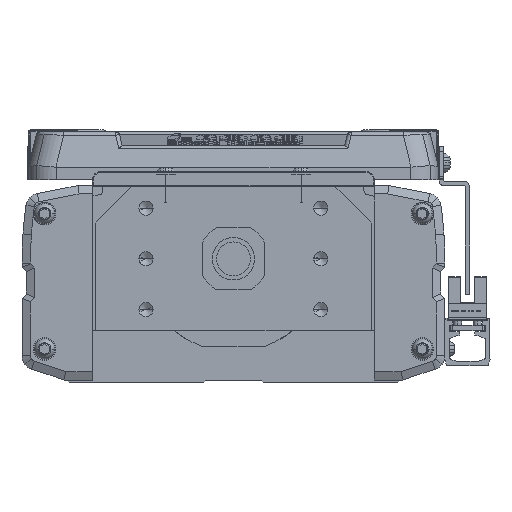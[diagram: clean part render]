
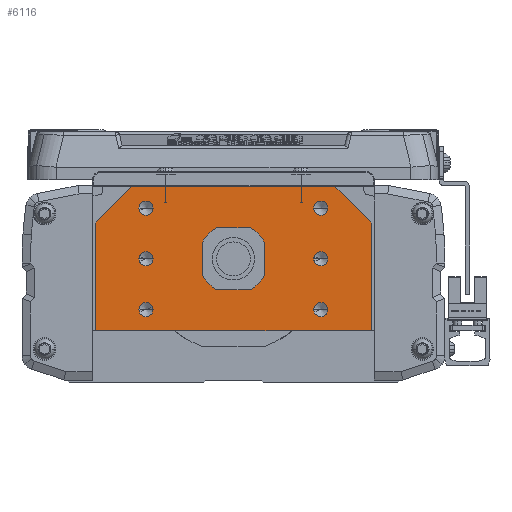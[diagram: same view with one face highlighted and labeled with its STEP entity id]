
A CAD part, left-side view. The second image highlights one B-rep face of the part: STEP entity #6116.
In plain terms, the highlighted planar face has unit normal (-1, 0, 0).
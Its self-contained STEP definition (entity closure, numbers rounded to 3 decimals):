
#6116=ADVANCED_FACE('',(#13040,#13041,#13042,#13043,#13044,#13045,#13046,#13047),#13048,.F.);
#13040=FACE_OUTER_BOUND('',#21862,.T.);
#13041=FACE_BOUND('',#21863,.T.);
#13042=FACE_BOUND('',#21864,.T.);
#13043=FACE_BOUND('',#21865,.T.);
#13044=FACE_BOUND('',#21866,.T.);
#13045=FACE_BOUND('',#21867,.T.);
#13046=FACE_BOUND('',#21868,.T.);
#13047=FACE_BOUND('',#21869,.T.);
#13048=PLANE('',#21870);
#21862=EDGE_LOOP('',(#39342,#39343,#39344,#39345,#39346,#39347,#39348,#39349));
#21863=EDGE_LOOP('',(#39350,#39351));
#21864=EDGE_LOOP('',(#39352,#39353));
#21865=EDGE_LOOP('',(#39354,#39355));
#21866=EDGE_LOOP('',(#39356,#39357));
#21867=EDGE_LOOP('',(#39358,#39359));
#21868=EDGE_LOOP('',(#39360,#39361));
#21869=EDGE_LOOP('',(#39362,#39363));
#21870=AXIS2_PLACEMENT_3D('',#39364,#39365,#39366);
#39342=ORIENTED_EDGE('',*,*,#51056,.F.);
#39343=ORIENTED_EDGE('',*,*,#51382,.F.);
#39344=ORIENTED_EDGE('',*,*,#52342,.F.);
#39345=ORIENTED_EDGE('',*,*,#54807,.F.);
#39346=ORIENTED_EDGE('',*,*,#53500,.F.);
#39347=ORIENTED_EDGE('',*,*,#54808,.F.);
#39348=ORIENTED_EDGE('',*,*,#51977,.F.);
#39349=ORIENTED_EDGE('',*,*,#54809,.F.);
#39350=ORIENTED_EDGE('',*,*,#54810,.T.);
#39351=ORIENTED_EDGE('',*,*,#50081,.T.);
#39352=ORIENTED_EDGE('',*,*,#54811,.T.);
#39353=ORIENTED_EDGE('',*,*,#50105,.T.);
#39354=ORIENTED_EDGE('',*,*,#54812,.T.);
#39355=ORIENTED_EDGE('',*,*,#54813,.T.);
#39356=ORIENTED_EDGE('',*,*,#54224,.T.);
#39357=ORIENTED_EDGE('',*,*,#51189,.T.);
#39358=ORIENTED_EDGE('',*,*,#54814,.T.);
#39359=ORIENTED_EDGE('',*,*,#54815,.T.);
#39360=ORIENTED_EDGE('',*,*,#54816,.T.);
#39361=ORIENTED_EDGE('',*,*,#48977,.T.);
#39362=ORIENTED_EDGE('',*,*,#54817,.F.);
#39363=ORIENTED_EDGE('',*,*,#50184,.F.);
#39364=CARTESIAN_POINT('',(0.,0.275,-2.548));
#39365=DIRECTION('',(1.0,0.,0.));
#39366=DIRECTION('',(0.,1.0,0.));
#48977=EDGE_CURVE('',#58660,#58658,#58661,.T.);
#50081=EDGE_CURVE('',#60541,#60539,#60542,.T.);
#50105=EDGE_CURVE('',#60583,#60581,#60584,.T.);
#50184=EDGE_CURVE('',#60712,#60715,#60716,.F.);
#51056=EDGE_CURVE('',#62101,#62102,#62103,.T.);
#51189=EDGE_CURVE('',#62312,#62310,#62313,.T.);
#51382=EDGE_CURVE('',#62616,#62101,#62618,.T.);
#51977=EDGE_CURVE('',#63547,#63548,#63549,.T.);
#52342=EDGE_CURVE('',#64092,#62616,#64094,.T.);
#53500=EDGE_CURVE('',#65765,#65767,#65768,.T.);
#54224=EDGE_CURVE('',#62310,#62312,#66748,.T.);
#54807=EDGE_CURVE('',#65767,#64092,#67485,.T.);
#54808=EDGE_CURVE('',#63548,#65765,#67486,.T.);
#54809=EDGE_CURVE('',#62102,#63547,#67487,.T.);
#54810=EDGE_CURVE('',#60539,#60541,#67488,.T.);
#54811=EDGE_CURVE('',#60581,#60583,#67489,.T.);
#54812=EDGE_CURVE('',#67490,#67491,#67492,.T.);
#54813=EDGE_CURVE('',#67491,#67490,#67493,.T.);
#54814=EDGE_CURVE('',#67494,#67495,#67496,.T.);
#54815=EDGE_CURVE('',#67495,#67494,#67497,.T.);
#54816=EDGE_CURVE('',#58658,#58660,#67498,.T.);
#54817=EDGE_CURVE('',#60715,#60712,#67499,.F.);
#58658=VERTEX_POINT('',#72211);
#58660=VERTEX_POINT('',#72214);
#58661=CIRCLE('',#72215,2.5);
#60539=VERTEX_POINT('',#74770);
#60541=VERTEX_POINT('',#74773);
#60542=CIRCLE('',#74774,2.5);
#60581=VERTEX_POINT('',#74825);
#60583=VERTEX_POINT('',#74828);
#60584=CIRCLE('',#74829,2.5);
#60712=VERTEX_POINT('',#74993);
#60715=VERTEX_POINT('',#74997);
#60716=CIRCLE('',#74998,7.5);
#62101=VERTEX_POINT('',#76898);
#62102=VERTEX_POINT('',#76899);
#62103=LINE('',#76900,#76901);
#62310=VERTEX_POINT('',#77199);
#62312=VERTEX_POINT('',#77202);
#62313=CIRCLE('',#77203,2.5);
#62616=VERTEX_POINT('',#77634);
#62618=LINE('',#77637,#77638);
#63547=VERTEX_POINT('',#78907);
#63548=VERTEX_POINT('',#78908);
#63549=LINE('',#78909,#78910);
#64092=VERTEX_POINT('',#79756);
#64094=LINE('',#79759,#79760);
#65765=VERTEX_POINT('',#82235);
#65767=VERTEX_POINT('',#82238);
#65768=LINE('',#82239,#82240);
#66748=CIRCLE('',#83637,2.5);
#67485=LINE('',#84889,#84890);
#67486=LINE('',#84891,#84892);
#67487=LINE('',#84893,#84894);
#67488=CIRCLE('',#84895,2.5);
#67489=CIRCLE('',#84896,2.5);
#67490=VERTEX_POINT('',#84897);
#67491=VERTEX_POINT('',#84898);
#67492=CIRCLE('',#84899,2.5);
#67493=CIRCLE('',#84900,2.5);
#67494=VERTEX_POINT('',#84901);
#67495=VERTEX_POINT('',#84902);
#67496=CIRCLE('',#84903,2.5);
#67497=CIRCLE('',#84904,2.5);
#67498=CIRCLE('',#84905,2.5);
#67499=CIRCLE('',#84906,7.5);
#72211=CARTESIAN_POINT('',(0.,-33.5,0.));
#72214=CARTESIAN_POINT('',(0.,-28.5,0.));
#72215=AXIS2_PLACEMENT_3D('',#89383,#89384,#89385);
#74770=CARTESIAN_POINT('',(0.,33.5,-18.));
#74773=CARTESIAN_POINT('',(0.,28.5,-18.));
#74774=AXIS2_PLACEMENT_3D('',#90930,#90931,#90932);
#74825=CARTESIAN_POINT('',(0.,-33.5,-18.));
#74828=CARTESIAN_POINT('',(0.,-28.5,-18.));
#74829=AXIS2_PLACEMENT_3D('',#90961,#90962,#90963);
#74993=CARTESIAN_POINT('',(0.,-7.5,0.));
#74997=CARTESIAN_POINT('',(0.,7.5,0.));
#74998=AXIS2_PLACEMENT_3D('',#91079,#91080,#91081);
#76898=CARTESIAN_POINT('',(0.,49.,12.7));
#76899=CARTESIAN_POINT('',(0.,36.,25.7));
#76900=CARTESIAN_POINT('',(0.,37.381,24.319));
#76901=VECTOR('',#92197,10.);
#77199=CARTESIAN_POINT('',(0.,-33.5,18.));
#77202=CARTESIAN_POINT('',(0.,-28.5,18.));
#77203=AXIS2_PLACEMENT_3D('',#92368,#92369,#92370);
#77634=CARTESIAN_POINT('',(0.,49.,-25.));
#77637=CARTESIAN_POINT('',(0.,49.,-25.));
#77638=VECTOR('',#92614,10.0);
#78907=CARTESIAN_POINT('',(0.,-36.,25.7));
#78908=CARTESIAN_POINT('',(0.,-49.,12.7));
#78909=CARTESIAN_POINT('',(0.,-37.243,24.457));
#78910=VECTOR('',#93397,10.0);
#79756=CARTESIAN_POINT('',(0.,48.5,-25.5));
#79759=CARTESIAN_POINT('',(0.,48.5,-25.5));
#79760=VECTOR('',#93884,10.0);
#82235=CARTESIAN_POINT('',(0.,-49.,-25.));
#82238=CARTESIAN_POINT('',(0.,-48.5,-25.5));
#82239=CARTESIAN_POINT('',(0.,-49.,-25.));
#82240=VECTOR('',#95330,10.0);
#83637=AXIS2_PLACEMENT_3D('',#96221,#96222,#96223);
#84889=CARTESIAN_POINT('',(0.,0.,-25.5));
#84890=VECTOR('',#96885,10.0);
#84891=CARTESIAN_POINT('',(0.,-49.,-14.));
#84892=VECTOR('',#96886,10.0);
#84893=CARTESIAN_POINT('',(0.,34.5,25.7));
#84894=VECTOR('',#96887,10.0);
#84895=AXIS2_PLACEMENT_3D('',#96888,#96889,#96890);
#84896=AXIS2_PLACEMENT_3D('',#96891,#96892,#96893);
#84897=CARTESIAN_POINT('',(0.,33.5,18.));
#84898=CARTESIAN_POINT('',(0.,28.5,18.));
#84899=AXIS2_PLACEMENT_3D('',#96894,#96895,#96896);
#84900=AXIS2_PLACEMENT_3D('',#96897,#96898,#96899);
#84901=CARTESIAN_POINT('',(0.,33.5,0.));
#84902=CARTESIAN_POINT('',(0.,28.5,0.));
#84903=AXIS2_PLACEMENT_3D('',#96900,#96901,#96902);
#84904=AXIS2_PLACEMENT_3D('',#96903,#96904,#96905);
#84905=AXIS2_PLACEMENT_3D('',#96906,#96907,#96908);
#84906=AXIS2_PLACEMENT_3D('',#96909,#96910,#96911);
#89383=CARTESIAN_POINT('',(0.,-31.,0.));
#89384=DIRECTION('',(1.0,0.,0.));
#89385=DIRECTION('',(0.,-1.0,0.));
#90930=CARTESIAN_POINT('',(0.,31.,-18.));
#90931=DIRECTION('',(1.0,0.,0.));
#90932=DIRECTION('',(0.,1.0,0.));
#90961=CARTESIAN_POINT('',(0.,-31.,-18.));
#90962=DIRECTION('',(1.0,0.,0.));
#90963=DIRECTION('',(0.,-1.0,0.));
#91079=CARTESIAN_POINT('',(0.,0.,0.));
#91080=DIRECTION('',(1.0,0.,0.));
#91081=DIRECTION('',(0.,-1.0,0.));
#92197=DIRECTION('',(0.,-0.707,0.707));
#92368=CARTESIAN_POINT('',(0.,-31.,18.));
#92369=DIRECTION('',(1.0,0.,0.));
#92370=DIRECTION('',(0.,-1.0,0.));
#92614=DIRECTION('',(0.,0.,1.0));
#93397=DIRECTION('',(0.,-0.707,-0.707));
#93884=DIRECTION('',(0.,0.707,0.707));
#95330=DIRECTION('',(0.,0.707,-0.707));
#96221=CARTESIAN_POINT('',(0.,-31.,18.));
#96222=DIRECTION('',(1.0,0.,0.));
#96223=DIRECTION('',(0.,-1.0,0.));
#96885=DIRECTION('',(0.,1.0,0.));
#96886=DIRECTION('',(0.,0.,-1.0));
#96887=DIRECTION('',(0.,-1.0,0.));
#96888=CARTESIAN_POINT('',(0.,31.,-18.));
#96889=DIRECTION('',(1.0,0.,0.));
#96890=DIRECTION('',(0.,1.0,0.));
#96891=CARTESIAN_POINT('',(0.,-31.,-18.));
#96892=DIRECTION('',(1.0,0.,0.));
#96893=DIRECTION('',(0.,-1.0,0.));
#96894=CARTESIAN_POINT('',(0.,31.,18.));
#96895=DIRECTION('',(1.0,0.,0.));
#96896=DIRECTION('',(0.,1.0,0.));
#96897=CARTESIAN_POINT('',(0.,31.,18.));
#96898=DIRECTION('',(1.0,0.,0.));
#96899=DIRECTION('',(0.,1.0,0.));
#96900=CARTESIAN_POINT('',(0.,31.,0.));
#96901=DIRECTION('',(1.0,0.,0.));
#96902=DIRECTION('',(0.,1.0,0.));
#96903=CARTESIAN_POINT('',(0.,31.,0.));
#96904=DIRECTION('',(1.0,0.,0.));
#96905=DIRECTION('',(0.,1.0,0.));
#96906=CARTESIAN_POINT('',(0.,-31.,0.));
#96907=DIRECTION('',(1.0,0.,0.));
#96908=DIRECTION('',(0.,-1.0,0.));
#96909=CARTESIAN_POINT('',(0.,0.,0.));
#96910=DIRECTION('',(1.0,0.,0.));
#96911=DIRECTION('',(0.,-1.0,0.));
